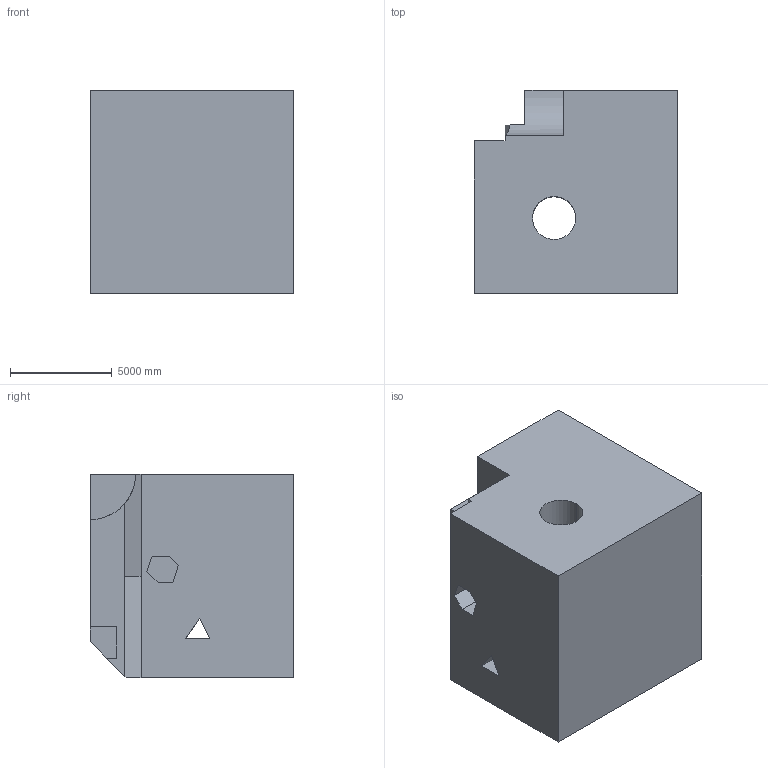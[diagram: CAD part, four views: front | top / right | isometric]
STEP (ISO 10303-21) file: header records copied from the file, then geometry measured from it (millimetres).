
FILE_DESCRIPTION (( 'STEP AP203' ), '1' );
FILE_NAME ('193.STEP', '2022-09-05T16:07:18', ( 'user' ), ( '' ), 'SwSTEP 2.0', 'SolidWorks 2021', '' );
FILE_SCHEMA (( 'CONFIG_CONTROL_DESIGN' ));
Length unit declared in the file: centimetre
Products named in the file (1): 193
Bounding box: 10000 x 10000 x 10000 mm (x, y, z)
Volume: 851721031804.1 mm3; surface area: 710110969.9 mm2
Topology: 1 solids, 1 shells, 36 faces, 105 edges, 70 vertices
Faces by surface type: plane 31, cylinder 5
Entity records: 1269 total; most frequent: CARTESIAN_POINT 230, ORIENTED_EDGE 210, DIRECTION 184, EDGE_CURVE 105, LINE 88, VECTOR 88, VERTEX_POINT 70, AXIS2_PLACEMENT_3D 48
